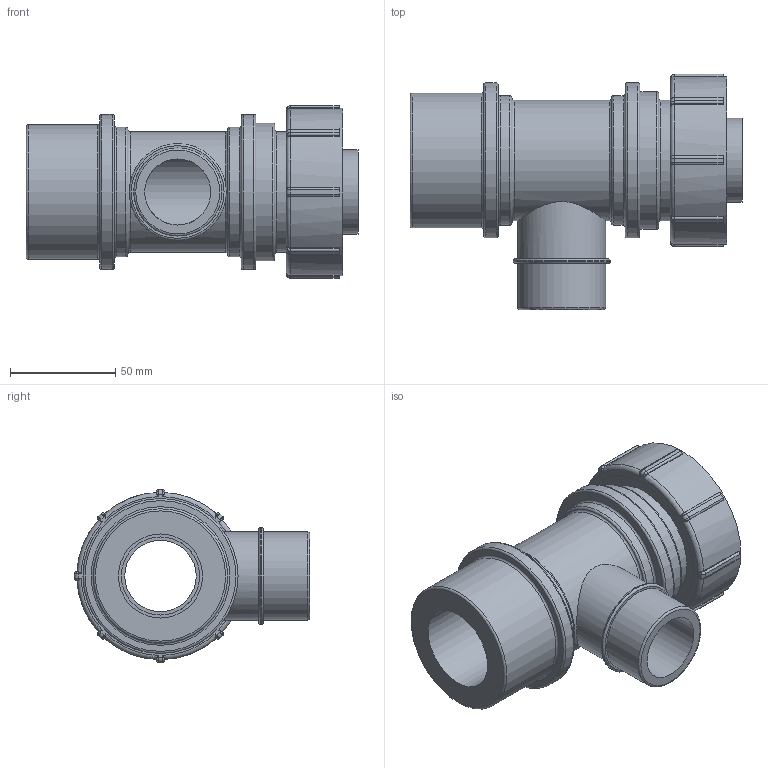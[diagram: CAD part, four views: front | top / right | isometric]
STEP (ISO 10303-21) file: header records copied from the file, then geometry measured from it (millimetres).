
FILE_DESCRIPTION(/* description */ ('PLASSON MODULAR MALE TEE 40-1.1/4"-40'),/* implementation_level */ '2;1');
FILE_NAME(/* name */ 'C:\Dropbox\KIMPROJECTS-Inventor\99-16-3568-Processing\Silver+MF ISRAEL\0784L6\0784L60400130A.ipt.stp',/* time_stamp */ '2018-04-09T13:01:18+03:00',/* author */ ('KIM'),/* organization */ (''),/* preprocessor_version */ 'ST-DEVELOPER v15.6',/* originating_system */ 'Autodesk Inventor 2015',/* authorisation */ '');
FILE_SCHEMA (('AUTOMOTIVE_DESIGN { 1 0 10303 214 3 1 1 }'));
Length unit declared in the file: millimetre
Products named in the file (1): 0784L60400130A
Bounding box: 158 x 112 x 82 mm (x, y, z)
Volume: 359853.9 mm3; surface area: 75955.7 mm2
Topology: 1 solids, 1 shells, 166 faces, 382 edges, 234 vertices
Faces by surface type: cylinder 59, plane 50, bspline 32, torus 25
Full cylindrical faces by diameter (mm): 31.433 x1, 34 x1, 37.2 x1, 40 x2, 41.91 x2, 46.101 x1, 57.4 x2, 61.5 x2, 64 x1, 65.6 x1, 69.7 x1, 73.8 x2, 75.44 x1, 79.54 x1
Entity records: 4988 total; most frequent: CARTESIAN_POINT 1441, DIRECTION 750, ORIENTED_EDGE 684, EDGE_CURVE 342, AXIS2_PLACEMENT_3D 323, VERTEX_POINT 230, EDGE_LOOP 222, CIRCLE 188
